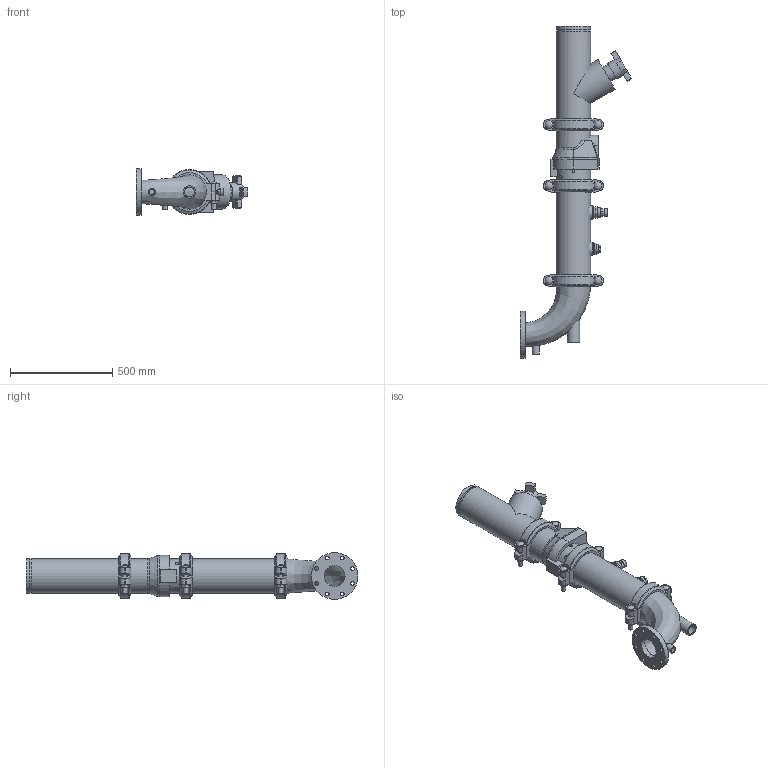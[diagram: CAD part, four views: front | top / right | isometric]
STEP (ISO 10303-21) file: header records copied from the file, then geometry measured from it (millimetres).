
FILE_DESCRIPTION(/* description */ ('VIC DVI PUMP DROP HORZ S/383 (OGSxFLG) (S/924-0.75)','CAx-IF Rec.Pracs.---Representation and Presentation of Product Manufacturing Information (PMI)---4.0---2014-10-13'),/* implementation_level */ '2;1');
FILE_NAME(/* name */ 'C:\Users\kkamble\AppData\Roaming\Autodesk\ApplicationPlugins\Victaulic.Temp\A821\CL 150_Series 383 (OGSxFLG)_924 (0.75)_06.0x04.0 (150x100).stp',/* time_stamp */ '2022-03-16T18:45:49+05:00',/* author */ ('kkamble'),/* organization */ ('Victaulic'),/* preprocessor_version */ 'ST-DEVELOPER v17.2',/* originating_system */ 'Autodesk Inventor 2019',/* authorisation */ '');
FILE_SCHEMA (('AP242_MANAGED_MODEL_BASED_3D_ENGINEERING_MIM_LF { 1 0 10303 442 1 1 4 }'));
Length unit declared in the file: inch
Products named in the file (8): 383_924 (0.75)-06.0x04.0; Pipe-06.0x04.0; 789-06.0; 177N-06.0; 779-06.0; 924-04.0x0.75; 923-04.0x0.75; R100F-06.0x04.0
Assembly tree (9 placements, depth 2):
  383_924 (0.75)-06.0x04.0
    177N-06.0  x3
    Pipe-06.0x04.0
    789-06.0
    779-06.0
    924-04.0x0.75
    923-04.0x0.75
    R100F-06.0x04.0
Bounding box: 546.1 x 1625.6 x 228.6 mm (x, y, z)
Volume: 15238866.5 mm3; surface area: 2454240.3 mm2
Topology: 9 solids, 9 shells, 529 faces, 1395 edges, 936 vertices
Faces by surface type: plane 305, cylinder 177, torus 18, cone 17, sphere 6, bspline 6
Full cylindrical faces by diameter (mm): 13.716 x4, 19.05 x8, 21.209 x6, 26.67 x3, 34.29 x1, 37.694 x6, 38.608 x1, 45.974 x4, 48.26 x1, 55.626 x2, 60.96 x1, 79.375 x1, 88.9 x1, 102.26 x1, 154.051 x4, 155.575 x3, 163.957 x7, 168.275 x18, 228.6 x1
Entity records: 12831 total; most frequent: CARTESIAN_POINT 3454, DIRECTION 1916, ORIENTED_EDGE 1770, EDGE_CURVE 885, AXIS2_PLACEMENT_3D 734, VERTEX_POINT 600, LINE 448, VECTOR 448
